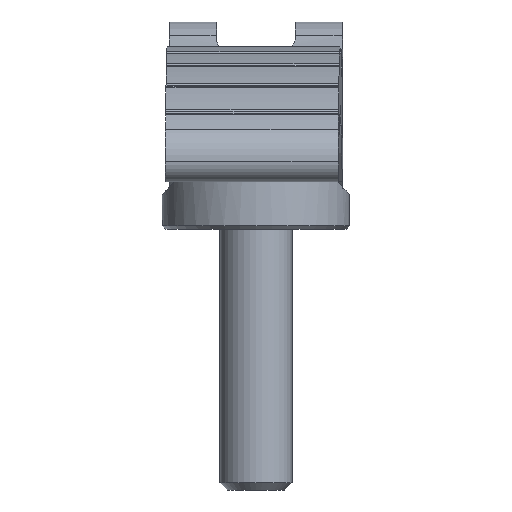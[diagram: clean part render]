
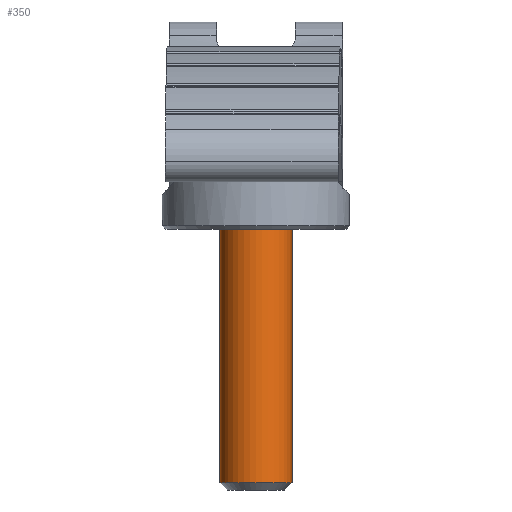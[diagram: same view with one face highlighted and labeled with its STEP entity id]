
A CAD part, left-side view. The second image highlights one B-rep face of the part: STEP entity #350.
In plain terms, the highlighted cylindrical face has radius 5 mm (diameter 10 mm), a full revolution.
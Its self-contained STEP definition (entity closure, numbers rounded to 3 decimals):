
#350=ADVANCED_FACE('',(#1155,#1157),#1159,.T.);
#1155=FACE_BOUND('',#1156,.T.);
#1156=EDGE_LOOP('',(#1581,#1582));
#1157=FACE_BOUND('',#1158,.T.);
#1158=EDGE_LOOP('',(#1583,#1584));
#1159=CYLINDRICAL_SURFACE('',#1160,5.);
#1160=AXIS2_PLACEMENT_3D('',#1161,#1162,#1163);
#1161=CARTESIAN_POINT('',(0.,0.,0.));
#1162=DIRECTION('',(-1.,0.,0.));
#1163=DIRECTION('',(0.,1.,0.));
#1581=ORIENTED_EDGE('',*,*,#1802,.T.);
#1582=ORIENTED_EDGE('',*,*,#1803,.T.);
#1583=ORIENTED_EDGE('',*,*,#1804,.T.);
#1584=ORIENTED_EDGE('',*,*,#1805,.T.);
#1802=EDGE_CURVE('',#2093,#2094,#2095,.T.);
#1803=EDGE_CURVE('',#2094,#2093,#2096,.T.);
#1804=EDGE_CURVE('',#2097,#2098,#2099,.T.);
#1805=EDGE_CURVE('',#2098,#2097,#2100,.T.);
#2093=VERTEX_POINT('',#4278);
#2094=VERTEX_POINT('',#4279);
#2095=CIRCLE('',#4280,5.);
#2096=CIRCLE('',#4284,5.);
#2097=VERTEX_POINT('',#4288);
#2098=VERTEX_POINT('',#4289);
#2099=CIRCLE('',#4290,5.);
#2100=CIRCLE('',#4294,5.);
#4278=CARTESIAN_POINT('',(-1.,5.,0.));
#4279=CARTESIAN_POINT('',(-1.,-5.,0.));
#4280=AXIS2_PLACEMENT_3D('',#4281,#4282,#4283);
#4281=CARTESIAN_POINT('',(-1.,0.,0.));
#4282=DIRECTION('',(-1.,0.,0.));
#4283=DIRECTION('',(0.,1.,0.));
#4284=AXIS2_PLACEMENT_3D('',#4285,#4286,#4287);
#4285=CARTESIAN_POINT('',(-1.,0.,0.));
#4286=DIRECTION('',(-1.,0.,0.));
#4287=DIRECTION('',(0.,-1.,0.));
#4288=CARTESIAN_POINT('',(-59.,5.,0.));
#4289=CARTESIAN_POINT('',(-59.,0.,5.));
#4290=AXIS2_PLACEMENT_3D('',#4291,#4292,#4293);
#4291=CARTESIAN_POINT('',(-59.,0.,0.));
#4292=DIRECTION('',(1.,0.,0.));
#4293=DIRECTION('',(0.,1.,0.));
#4294=AXIS2_PLACEMENT_3D('',#4295,#4296,#4297);
#4295=CARTESIAN_POINT('',(-59.,0.,0.));
#4296=DIRECTION('',(1.,0.,0.));
#4297=DIRECTION('',(0.,0.,1.));
